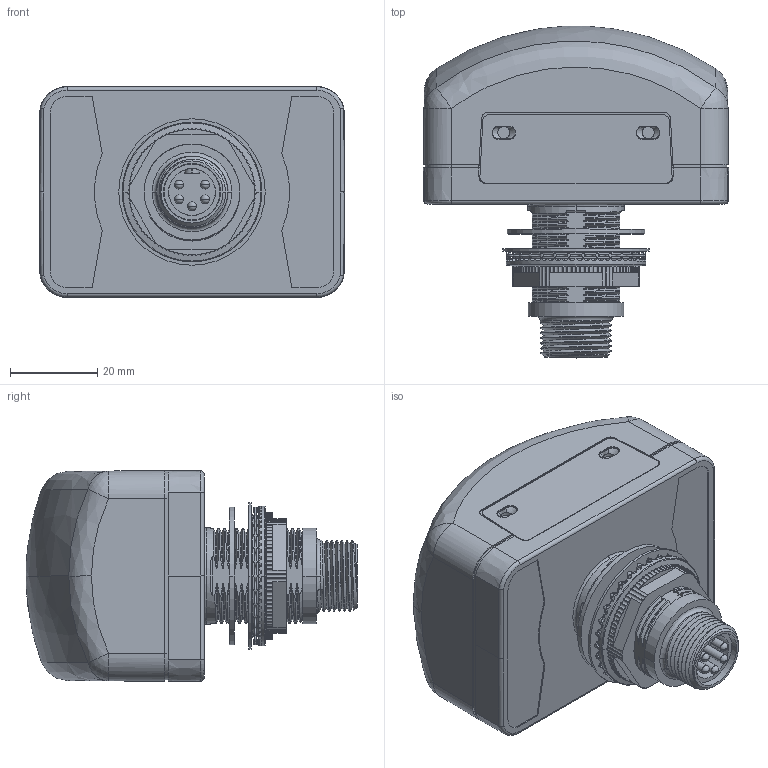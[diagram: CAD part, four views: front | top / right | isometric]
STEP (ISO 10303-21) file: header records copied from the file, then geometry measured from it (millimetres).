
FILE_DESCRIPTION((''),'2;1');
FILE_NAME('800Z-GL2_ASM','2013-10-03T',('Gkariappa'),(''),'PRO/ENGINEER BY PARAMETRIC TECHNOLOGY CORPORATION, 2010140','PRO/ENGINEER BY PARAMETRIC TECHNOLOGY CORPORATION, 2010140','');
FILE_SCHEMA(('CONFIG_CONTROL_DESIGN'));
Products named in the file (17): 40194-183_NEW; 40194-456-C11000_NEW; 40194-456-C9386_NEW; 40194-456-S616505; 40194-456-S29357_NEW; 40194-328_ASM; 40194-185; 40194-184-FORM; 40194-94284800; 10000010354; 40194-326_ASM; 40194-LABEL; 40194-456-20MMGSKT_NEW; 40194-465-LOCKWSHR_NEW; 40194-7501203601_NEW; 40194-7501203501_NEW; 800Z-GL2_ASM
Assembly tree (21 placements, depth 3):
  800Z-GL2_ASM
    40194-328_ASM
      40194-183_NEW
      40194-456-C11000_NEW
      40194-456-C9386_NEW
      40194-456-S616505  x5
      40194-456-S29357_NEW
    40194-326_ASM
      40194-185
      40194-184-FORM  x2
      40194-94284800
      10000010354
    40194-LABEL
    40194-456-20MMGSKT_NEW
    40194-465-LOCKWSHR_NEW
    40194-7501203601_NEW
    40194-7501203501_NEW
Bounding box: 69.85 x 76.01 x 48.26 mm (x, y, z)
Volume: 36495 mm3; surface area: 51503.6 mm2
Topology: 19 solids, 23 shells, 1973 faces, 5495 edges, 3582 vertices
Faces by surface type: plane 895, cylinder 538, bspline 390, cone 67, torus 51, sphere 28, extrusion 4
Entity records: 160103 total; most frequent: CARTESIAN_POINT 116482, ORIENTED_EDGE 10548, DIRECTION 6735, EDGE_CURVE 5290, VERTEX_POINT 3448, B_SPLINE_CURVE_WITH_KNOTS 2498, AXIS2_PLACEMENT_3D 2371, VECTOR 1993
